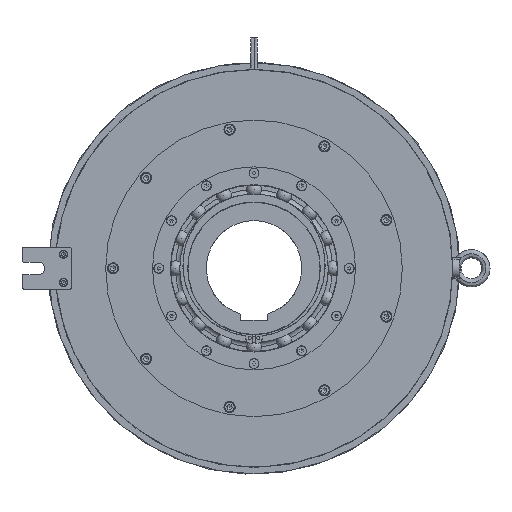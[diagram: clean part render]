
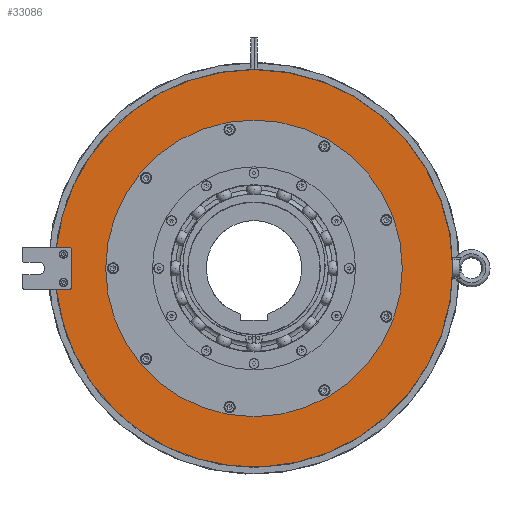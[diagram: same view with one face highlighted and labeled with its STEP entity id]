
A CAD part, left-side view. The second image highlights one B-rep face of the part: STEP entity #33086.
In plain terms, the highlighted planar face has unit normal (-1, 0, 0).
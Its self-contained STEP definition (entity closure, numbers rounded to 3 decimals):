
#1303=FACE_BOUND('',#5641,.T.);
#1947=PLANE('',#36927);
#3530=FACE_OUTER_BOUND('',#5640,.T.);
#5640=EDGE_LOOP('',(#29088,#29089,#29090,#29091,#29092,#29093,#29094,#29095));
#5641=EDGE_LOOP('',(#29096,#29097));
#6288=CIRCLE('',#33285,239.8);
#6291=CIRCLE('',#33288,239.8);
#8381=CIRCLE('',#36906,239.8);
#8396=CIRCLE('',#36928,2.);
#8397=CIRCLE('',#36929,2.);
#8398=CIRCLE('',#36930,179.);
#8399=CIRCLE('',#36931,179.);
#10044=LINE('',#66089,#11774);
#10045=LINE('',#66091,#11775);
#10046=LINE('',#66095,#11776);
#11774=VECTOR('',#46059,10.);
#11775=VECTOR('',#46060,10.);
#11776=VECTOR('',#46063,10.);
#11990=VERTEX_POINT('',#46931);
#11991=VERTEX_POINT('',#46933);
#11993=VERTEX_POINT('',#46937);
#11994=VERTEX_POINT('',#46939);
#15119=VERTEX_POINT('',#66088);
#15120=VERTEX_POINT('',#66090);
#15121=VERTEX_POINT('',#66092);
#15122=VERTEX_POINT('',#66094);
#15123=VERTEX_POINT('',#66097);
#15124=VERTEX_POINT('',#66098);
#15429=EDGE_CURVE('',#11991,#11990,#6288,.T.);
#15432=EDGE_CURVE('',#11994,#11993,#6291,.T.);
#19832=EDGE_CURVE('',#11990,#11994,#8381,.T.);
#19851=EDGE_CURVE('',#15119,#11991,#10044,.T.);
#19852=EDGE_CURVE('',#11993,#15120,#10045,.T.);
#19853=EDGE_CURVE('',#15120,#15121,#8396,.T.);
#19854=EDGE_CURVE('',#15121,#15122,#10046,.T.);
#19855=EDGE_CURVE('',#15122,#15119,#8397,.T.);
#19856=EDGE_CURVE('',#15123,#15124,#8398,.T.);
#19857=EDGE_CURVE('',#15124,#15123,#8399,.T.);
#29088=ORIENTED_EDGE('',*,*,#19851,.T.);
#29089=ORIENTED_EDGE('',*,*,#15429,.T.);
#29090=ORIENTED_EDGE('',*,*,#19832,.T.);
#29091=ORIENTED_EDGE('',*,*,#15432,.T.);
#29092=ORIENTED_EDGE('',*,*,#19852,.T.);
#29093=ORIENTED_EDGE('',*,*,#19853,.T.);
#29094=ORIENTED_EDGE('',*,*,#19854,.T.);
#29095=ORIENTED_EDGE('',*,*,#19855,.T.);
#29096=ORIENTED_EDGE('',*,*,#19856,.T.);
#29097=ORIENTED_EDGE('',*,*,#19857,.T.);
#33086=ADVANCED_FACE('',(#3530,#1303),#1947,.T.);
#33285=AXIS2_PLACEMENT_3D('',#46934,#37256,#37257);
#33288=AXIS2_PLACEMENT_3D('',#46940,#37262,#37263);
#36906=AXIS2_PLACEMENT_3D('',#66031,#46012,#46013);
#36927=AXIS2_PLACEMENT_3D('',#66087,#46057,#46058);
#36928=AXIS2_PLACEMENT_3D('',#66093,#46061,#46062);
#36929=AXIS2_PLACEMENT_3D('',#66096,#46064,#46065);
#36930=AXIS2_PLACEMENT_3D('',#66099,#46066,#46067);
#36931=AXIS2_PLACEMENT_3D('',#66100,#46068,#46069);
#37256=DIRECTION('center_axis',(-1.,0.,0.));
#37257=DIRECTION('ref_axis',(0.,1.,0.));
#37262=DIRECTION('center_axis',(-1.,0.,0.));
#37263=DIRECTION('ref_axis',(0.,1.,0.));
#46012=DIRECTION('center_axis',(-1.,0.,0.));
#46013=DIRECTION('ref_axis',(0.,1.,0.));
#46057=DIRECTION('center_axis',(-1.,0.,0.));
#46058=DIRECTION('ref_axis',(0.,0.,
1.));
#46059=DIRECTION('',(0.,1.,0.));
#46060=DIRECTION('',(0.,-1.,0.));
#46061=DIRECTION('center_axis',(1.,0.,0.));
#46062=DIRECTION('ref_axis',(0.,-0.707,0.707));
#46063=DIRECTION('',(0.,0.,-1.));
#46064=DIRECTION('center_axis',(1.,0.,0.));
#46065=DIRECTION('ref_axis',(0.,-0.707,-0.707));
#46066=DIRECTION('center_axis',(1.,0.,0.));
#46067=DIRECTION('ref_axis',(0.,1.,0.));
#46068=DIRECTION('center_axis',(1.,0.,0.));
#46069=DIRECTION('ref_axis',(0.,1.,0.));
#46931=CARTESIAN_POINT('',(-112.,-239.8,0.));
#46933=CARTESIAN_POINT('',(-112.,238.493,-25.));
#46934=CARTESIAN_POINT('Origin',(-112.,0.,0.));
#46937=CARTESIAN_POINT('',(-112.,238.493,25.));
#46939=CARTESIAN_POINT('',(-112.,0.,239.8));
#46940=CARTESIAN_POINT('Origin',(-112.,0.,0.));
#66031=CARTESIAN_POINT('Origin',(-112.,0.,0.));
#66087=CARTESIAN_POINT('Origin',(-112.,201.15,0.));
#66088=CARTESIAN_POINT('',(-112.,222.,-25.));
#66089=CARTESIAN_POINT('',(-112.,210.575,-25.));
#66090=CARTESIAN_POINT('',(-112.,222.,25.));
#66091=CARTESIAN_POINT('',(-112.,240.575,25.));
#66092=CARTESIAN_POINT('',(-112.,220.,23.));
#66093=CARTESIAN_POINT('Origin',(-112.,222.,23.));
#66094=CARTESIAN_POINT('',(-112.,220.,-23.));
#66095=CARTESIAN_POINT('',(-112.,220.,12.5));
#66096=CARTESIAN_POINT('Origin',(-112.,222.,-23.));
#66097=CARTESIAN_POINT('',(-112.,179.,0.));
#66098=CARTESIAN_POINT('',(-112.,-179.,0.));
#66099=CARTESIAN_POINT('Origin',(-112.,0.,0.));
#66100=CARTESIAN_POINT('Origin',(-112.,0.,0.));
